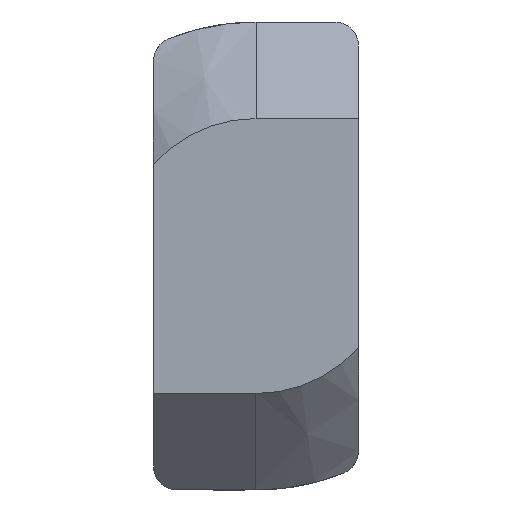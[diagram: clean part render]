
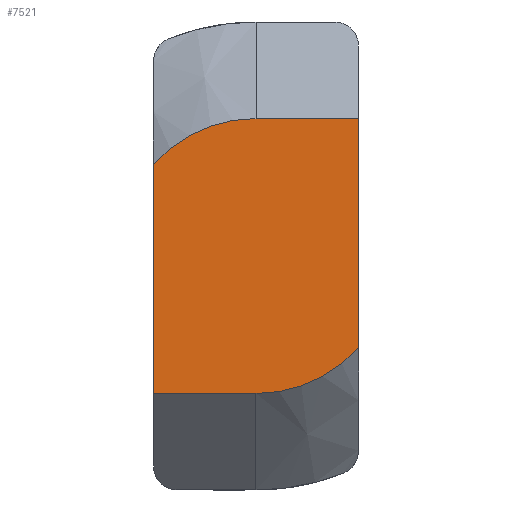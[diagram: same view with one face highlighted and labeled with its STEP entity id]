
A CAD part, front view. The second image highlights one B-rep face of the part: STEP entity #7521.
In plain terms, the highlighted planar face has unit normal (0, -1, 0).
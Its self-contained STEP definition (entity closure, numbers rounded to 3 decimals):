
#116 = DIRECTION ( 'NONE',  ( 0., 0., 1. ) ) ;
#709 = VERTEX_POINT ( 'NONE', #5553 ) ;
#722 = EDGE_CURVE ( 'NONE', #1925, #7971, #8505, .T. ) ;
#752 = DIRECTION ( 'NONE',  ( 0., 1., 0. ) ) ;
#772 = VECTOR ( 'NONE', #8239, 1000. ) ;
#1071 = CARTESIAN_POINT ( 'NONE',  ( 0., 0., 0. ) ) ;
#1383 = VERTEX_POINT ( 'NONE', #3249 ) ;
#1434 = VECTOR ( 'NONE', #11247, 1000. ) ;
#1836 = CIRCLE ( 'NONE', #8866, 5.7 ) ;
#1925 = VERTEX_POINT ( 'NONE', #5994 ) ;
#2030 = VECTOR ( 'NONE', #11454, 1000. ) ;
#2073 = LINE ( 'NONE', #3913, #8715 ) ;
#2178 = CIRCLE ( 'NONE', #12015, 5.7 ) ;
#2251 = DIRECTION ( 'NONE',  ( 0., 1., 0. ) ) ;
#2618 = CARTESIAN_POINT ( 'NONE',  ( 0., 0., 5.7 ) ) ;
#3139 = FACE_OUTER_BOUND ( 'NONE', #5408, .T. ) ;
#3249 = CARTESIAN_POINT ( 'NONE',  ( 4.25, 0., 5.7 ) ) ;
#3352 = CARTESIAN_POINT ( 'NONE',  ( 0., 0., 5.7 ) ) ;
#3913 = CARTESIAN_POINT ( 'NONE',  ( 4.25, 0., -8.07 ) ) ;
#4095 = EDGE_CURVE ( 'NONE', #7971, #6742, #8425, .T. ) ;
#4276 = ORIENTED_EDGE ( 'NONE', *, *, #5831, .F. ) ;
#4679 = CARTESIAN_POINT ( 'NONE',  ( 0., 0., 0. ) ) ;
#5150 = DIRECTION ( 'NONE',  ( 0., 0., 1. ) ) ;
#5408 = EDGE_LOOP ( 'NONE', ( #12056, #4276, #8210, #8784, #8992, #12221 ) ) ;
#5553 = CARTESIAN_POINT ( 'NONE',  ( 4.25, 0., -3.798 ) ) ;
#5831 = EDGE_CURVE ( 'NONE', #6742, #10141, #2178, .T. ) ;
#5994 = CARTESIAN_POINT ( 'NONE',  ( 0., 0., -5.7 ) ) ;
#6742 = VERTEX_POINT ( 'NONE', #12293 ) ;
#7080 = EDGE_CURVE ( 'NONE', #10141, #1383, #11066, .T. ) ;
#7521 = ADVANCED_FACE ( 'NONE', ( #3139 ), #10855, .F. ) ;
#7612 = CARTESIAN_POINT ( 'NONE',  ( -4.25, 0., 8.07 ) ) ;
#7971 = VERTEX_POINT ( 'NONE', #8595 ) ;
#8210 = ORIENTED_EDGE ( 'NONE', *, *, #4095, .F. ) ;
#8239 = DIRECTION ( 'NONE',  ( 1., 0., 0. ) ) ;
#8425 = LINE ( 'NONE', #7612, #1434 ) ;
#8505 = LINE ( 'NONE', #12345, #2030 ) ;
#8563 = DIRECTION ( 'NONE',  ( 0., 0., 1. ) ) ;
#8595 = CARTESIAN_POINT ( 'NONE',  ( -4.25, 0., -5.7 ) ) ;
#8715 = VECTOR ( 'NONE', #9624, 1000. ) ;
#8748 = DIRECTION ( 'NONE',  ( 0., 1., 0. ) ) ;
#8784 = ORIENTED_EDGE ( 'NONE', *, *, #722, .F. ) ;
#8866 = AXIS2_PLACEMENT_3D ( 'NONE', #4679, #752, #8563 ) ;
#8992 = ORIENTED_EDGE ( 'NONE', *, *, #9230, .F. ) ;
#9230 = EDGE_CURVE ( 'NONE', #709, #1925, #1836, .T. ) ;
#9624 = DIRECTION ( 'NONE',  ( 0., 0., -1. ) ) ;
#9857 = CARTESIAN_POINT ( 'NONE',  ( 0., 0., 0. ) ) ;
#10141 = VERTEX_POINT ( 'NONE', #2618 ) ;
#10835 = EDGE_CURVE ( 'NONE', #1383, #709, #2073, .T. ) ;
#10855 = PLANE ( 'NONE',  #11221 ) ;
#11066 = LINE ( 'NONE', #3352, #772 ) ;
#11221 = AXIS2_PLACEMENT_3D ( 'NONE', #9857, #2251, #5150 ) ;
#11247 = DIRECTION ( 'NONE',  ( 0., 0., 1. ) ) ;
#11454 = DIRECTION ( 'NONE',  ( -1., 0., 0. ) ) ;
#12015 = AXIS2_PLACEMENT_3D ( 'NONE', #1071, #8748, #116 ) ;
#12056 = ORIENTED_EDGE ( 'NONE', *, *, #7080, .F. ) ;
#12221 = ORIENTED_EDGE ( 'NONE', *, *, #10835, .F. ) ;
#12293 = CARTESIAN_POINT ( 'NONE',  ( -4.25, 0., 3.798 ) ) ;
#12345 = CARTESIAN_POINT ( 'NONE',  ( 0., 0., -5.7 ) ) ;
